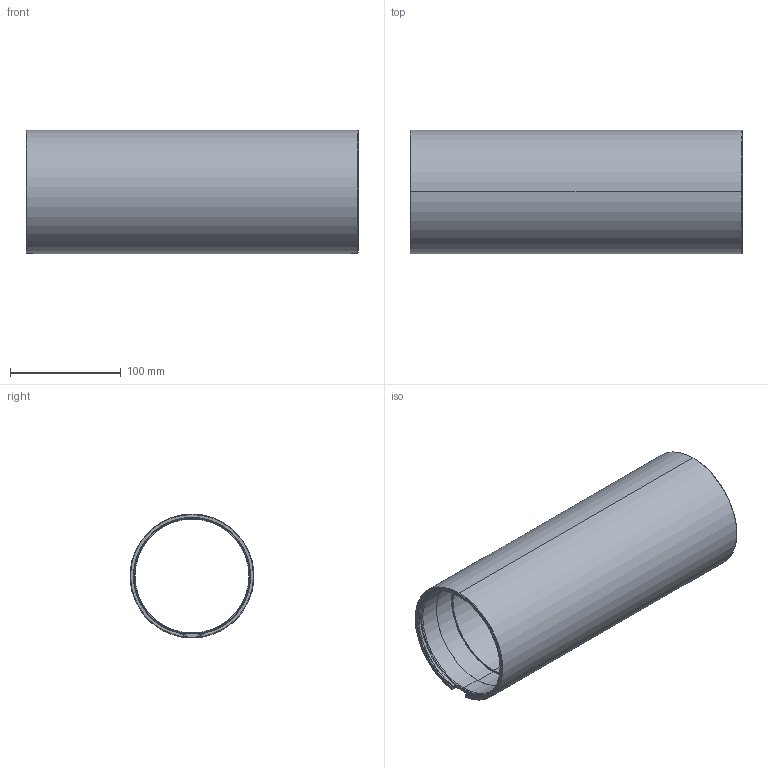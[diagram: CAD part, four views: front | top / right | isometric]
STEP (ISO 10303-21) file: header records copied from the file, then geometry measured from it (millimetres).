
FILE_DESCRIPTION (( 'STEP AP214' ), '1' );
FILE_NAME ('BR-100195-300_RevC.STEP', '2025-03-03T21:23:04', ( '' ), ( '' ), 'SwSTEP 2.0', 'SolidWorks 2024', '' );
FILE_SCHEMA (( 'AUTOMOTIVE_DESIGN' ));
Length unit declared in the file: millimetre
Products named in the file (1): BR-100195-300_RevC
Bounding box: 300 x 111.63 x 112 mm (x, y, z)
Volume: 421245 mm3; surface area: 206971.5 mm2
Topology: 1 solids, 1 shells, 94 faces, 240 edges, 150 vertices
Faces by surface type: cylinder 24, bspline 24, cone 18, plane 16, torus 12
Entity records: 5910 total; most frequent: CARTESIAN_POINT 3860, ORIENTED_EDGE 480, DIRECTION 342, EDGE_CURVE 240, VERTEX_POINT 150, AXIS2_PLACEMENT_3D 147, B_SPLINE_CURVE_WITH_KNOTS 112, EDGE_LOOP 98
